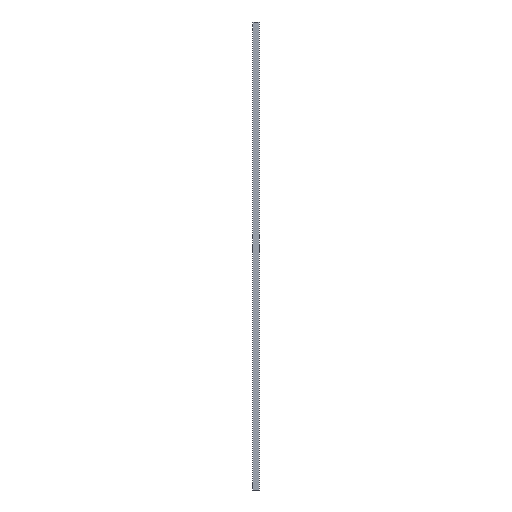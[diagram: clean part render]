
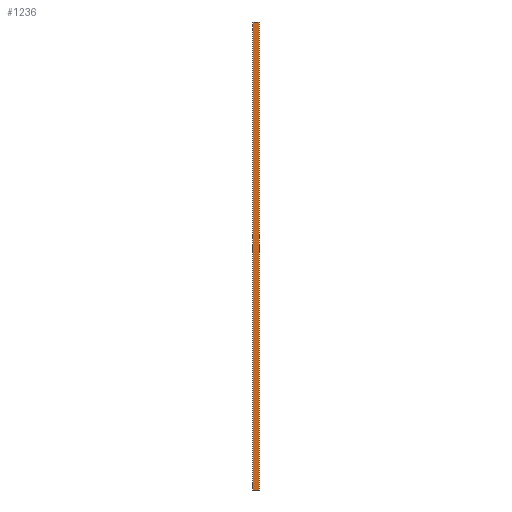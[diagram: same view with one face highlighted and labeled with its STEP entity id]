
A CAD part, left-side view. The second image highlights one B-rep face of the part: STEP entity #1236.
In plain terms, the highlighted planar face has unit normal (-1, 0, 0).
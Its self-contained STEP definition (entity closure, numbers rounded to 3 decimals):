
#1 = VECTOR ( 'NONE', #227, 1000. ) ;
#35 = EDGE_CURVE ( 'NONE', #625, #371, #888, .T. ) ;
#78 = LINE ( 'NONE', #723, #103 ) ;
#103 = VECTOR ( 'NONE', #1158, 1000. ) ;
#110 = CARTESIAN_POINT ( 'NONE',  ( -8., 3.2, 0. ) ) ;
#186 = LINE ( 'NONE', #745, #558 ) ;
#227 = DIRECTION ( 'NONE',  ( 0., 0., -1. ) ) ;
#232 = CARTESIAN_POINT ( 'NONE',  ( -8., 0., 0. ) ) ;
#254 = FACE_OUTER_BOUND ( 'NONE', #272, .T. ) ;
#272 = EDGE_LOOP ( 'NONE', ( #658, #586, #591, #529, #620, #1334, #725, #1025 ) ) ;
#277 = EDGE_CURVE ( 'NONE', #884, #936, #186, .T. ) ;
#298 = DIRECTION ( 'NONE',  ( 0., -1., 0. ) ) ;
#307 = CARTESIAN_POINT ( 'NONE',  ( -8., 3.2, 879. ) ) ;
#320 = LINE ( 'NONE', #1077, #1269 ) ;
#350 = DIRECTION ( 'NONE',  ( 0., -1., 0. ) ) ;
#358 = LINE ( 'NONE', #449, #1 ) ;
#371 = VERTEX_POINT ( 'NONE', #889 ) ;
#374 = EDGE_CURVE ( 'NONE', #371, #936, #358, .T. ) ;
#406 = VECTOR ( 'NONE', #350, 1000. ) ;
#412 = DIRECTION ( 'NONE',  ( 0., 1., 0. ) ) ;
#431 = VERTEX_POINT ( 'NONE', #1356 ) ;
#439 = VERTEX_POINT ( 'NONE', #1214 ) ;
#449 = CARTESIAN_POINT ( 'NONE',  ( -8., 0., 879. ) ) ;
#496 = CARTESIAN_POINT ( 'NONE',  ( -8., 12.5, 0. ) ) ;
#509 = LINE ( 'NONE', #949, #962 ) ;
#529 = ORIENTED_EDGE ( 'NONE', *, *, #35, .F. ) ;
#534 = VERTEX_POINT ( 'NONE', #496 ) ;
#548 = VECTOR ( 'NONE', #784, 1000. ) ;
#558 = VECTOR ( 'NONE', #298, 1000. ) ;
#576 = CARTESIAN_POINT ( 'NONE',  ( -8., 0., 879. ) ) ;
#586 = ORIENTED_EDGE ( 'NONE', *, *, #277, .T. ) ;
#591 = ORIENTED_EDGE ( 'NONE', *, *, #374, .F. ) ;
#620 = ORIENTED_EDGE ( 'NONE', *, *, #679, .T. ) ;
#625 = VERTEX_POINT ( 'NONE', #307 ) ;
#626 = DIRECTION ( 'NONE',  ( 0., 1., 0. ) ) ;
#652 = DIRECTION ( 'NONE',  ( 0., 1., 0. ) ) ;
#658 = ORIENTED_EDGE ( 'NONE', *, *, #758, .F. ) ;
#679 = EDGE_CURVE ( 'NONE', #625, #1244, #850, .T. ) ;
#723 = CARTESIAN_POINT ( 'NONE',  ( -8., 0., 0. ) ) ;
#724 = EDGE_CURVE ( 'NONE', #439, #534, #78, .T. ) ;
#725 = ORIENTED_EDGE ( 'NONE', *, *, #959, .T. ) ;
#745 = CARTESIAN_POINT ( 'NONE',  ( -8., 0., 0. ) ) ;
#758 = EDGE_CURVE ( 'NONE', #884, #439, #509, .T. ) ;
#784 = DIRECTION ( 'NONE',  ( 0., 0., -1. ) ) ;
#790 = PLANE ( 'NONE',  #1136 ) ;
#850 = LINE ( 'NONE', #1183, #937 ) ;
#853 = EDGE_CURVE ( 'NONE', #1244, #431, #320, .T. ) ;
#884 = VERTEX_POINT ( 'NONE', #110 ) ;
#888 = LINE ( 'NONE', #1099, #406 ) ;
#889 = CARTESIAN_POINT ( 'NONE',  ( -8., 0., 879. ) ) ;
#905 = DIRECTION ( 'NONE',  ( 0., 0., 1. ) ) ;
#906 = CARTESIAN_POINT ( 'NONE',  ( -8., 12.5, 879. ) ) ;
#936 = VERTEX_POINT ( 'NONE', #232 ) ;
#937 = VECTOR ( 'NONE', #626, 1000. ) ;
#949 = CARTESIAN_POINT ( 'NONE',  ( -8., 0., 0. ) ) ;
#959 = EDGE_CURVE ( 'NONE', #431, #534, #1366, .T. ) ;
#962 = VECTOR ( 'NONE', #412, 1000. ) ;
#992 = DIRECTION ( 'NONE',  ( -1., 0., 0. ) ) ;
#1025 = ORIENTED_EDGE ( 'NONE', *, *, #724, .F. ) ;
#1077 = CARTESIAN_POINT ( 'NONE',  ( -8., 12.5, 879. ) ) ;
#1099 = CARTESIAN_POINT ( 'NONE',  ( -8., 0., 879. ) ) ;
#1136 = AXIS2_PLACEMENT_3D ( 'NONE', #576, #992, #905 ) ;
#1158 = DIRECTION ( 'NONE',  ( 0., 1., 0. ) ) ;
#1183 = CARTESIAN_POINT ( 'NONE',  ( -8., 0., 879. ) ) ;
#1214 = CARTESIAN_POINT ( 'NONE',  ( -8., 9.3, 0. ) ) ;
#1236 = ADVANCED_FACE ( 'NONE', ( #254 ), #790, .T. ) ;
#1244 = VERTEX_POINT ( 'NONE', #1249 ) ;
#1249 = CARTESIAN_POINT ( 'NONE',  ( -8., 9.3, 879. ) ) ;
#1269 = VECTOR ( 'NONE', #652, 1000. ) ;
#1334 = ORIENTED_EDGE ( 'NONE', *, *, #853, .T. ) ;
#1356 = CARTESIAN_POINT ( 'NONE',  ( -8., 12.5, 879. ) ) ;
#1366 = LINE ( 'NONE', #906, #548 ) ;
